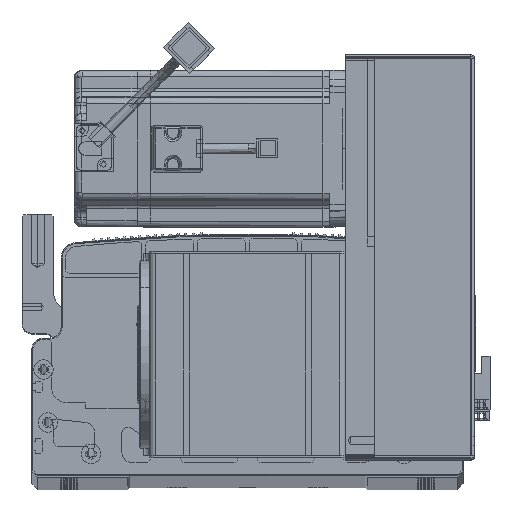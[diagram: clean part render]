
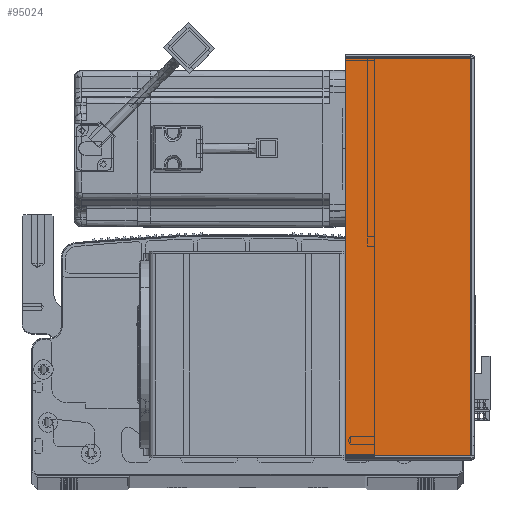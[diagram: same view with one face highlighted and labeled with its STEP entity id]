
A CAD part, top view. The second image highlights one B-rep face of the part: STEP entity #95024.
In plain terms, the highlighted planar face has unit normal (0, 0, 1) as drawn and (0, -1, 0) by its records, which use the part's own axes.
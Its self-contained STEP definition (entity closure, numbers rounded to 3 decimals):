
#1589 = ORIENTED_EDGE ( 'NONE', *, *, #7810, .F. ) ;
#6285 = VECTOR ( 'NONE', #42379, 1000. ) ;
#6945 = DIRECTION ( 'NONE',  ( 0., 0., 1. ) ) ;
#7810 = EDGE_CURVE ( 'NONE', #67510, #68936, #103059, .T. ) ;
#10735 = VERTEX_POINT ( 'NONE', #52983 ) ;
#27131 = ORIENTED_EDGE ( 'NONE', *, *, #31473, .T. ) ;
#28363 = CARTESIAN_POINT ( 'NONE',  ( 0.737, -1.5, -0.707 ) ) ;
#31473 = EDGE_CURVE ( 'NONE', #10735, #68936, #69941, .T. ) ;
#33158 = ORIENTED_EDGE ( 'NONE', *, *, #55592, .F. ) ;
#34346 = CARTESIAN_POINT ( 'NONE',  ( 64.5, -1.5, 0. ) ) ;
#36056 = CARTESIAN_POINT ( 'NONE',  ( 64.5, -1.5, -0.707 ) ) ;
#37682 = CARTESIAN_POINT ( 'NONE',  ( 0., -1.5, -0.707 ) ) ;
#38655 = LINE ( 'NONE', #44530, #57277 ) ;
#38825 = ORIENTED_EDGE ( 'NONE', *, *, #65498, .T. ) ;
#40013 = CARTESIAN_POINT ( 'NONE',  ( 0.737, -1.5, 0. ) ) ;
#42379 = DIRECTION ( 'NONE',  ( 0., 0., 1. ) ) ;
#44530 = CARTESIAN_POINT ( 'NONE',  ( 0., -1.5, -203.293 ) ) ;
#45356 = DIRECTION ( 'NONE',  ( -1., 0., 0. ) ) ;
#45768 = DIRECTION ( 'NONE',  ( 1., 0., 0. ) ) ;
#45909 = FACE_OUTER_BOUND ( 'NONE', #86773, .T. ) ;
#48933 = LINE ( 'NONE', #40013, #66341 ) ;
#52571 = DIRECTION ( 'NONE',  ( 1., 0., 0. ) ) ;
#52983 = CARTESIAN_POINT ( 'NONE',  ( 64.5, -1.5, -203.293 ) ) ;
#55592 = EDGE_CURVE ( 'NONE', #99610, #67510, #48933, .T. ) ;
#57277 = VECTOR ( 'NONE', #52571, 1000. ) ;
#65498 = EDGE_CURVE ( 'NONE', #99610, #10735, #38655, .T. ) ;
#66341 = VECTOR ( 'NONE', #6945, 1000. ) ;
#67510 = VERTEX_POINT ( 'NONE', #28363 ) ;
#68936 = VERTEX_POINT ( 'NONE', #36056 ) ;
#69941 = LINE ( 'NONE', #34346, #6285 ) ;
#74040 = AXIS2_PLACEMENT_3D ( 'NONE', #85052, #76769, #45356 ) ;
#74735 = CARTESIAN_POINT ( 'NONE',  ( 0.737, -1.5, -203.293 ) ) ;
#76437 = PLANE ( 'NONE',  #74040 ) ;
#76769 = DIRECTION ( 'NONE',  ( 0., 1., 0. ) ) ;
#85052 = CARTESIAN_POINT ( 'NONE',  ( 0., -1.5, 0. ) ) ;
#86773 = EDGE_LOOP ( 'NONE', ( #33158, #38825, #27131, #1589 ) ) ;
#95024 = ADVANCED_FACE ( 'NONE', ( #45909 ), #76437, .F. ) ;
#99610 = VERTEX_POINT ( 'NONE', #74735 ) ;
#101854 = VECTOR ( 'NONE', #45768, 1000. ) ;
#103059 = LINE ( 'NONE', #37682, #101854 ) ;
